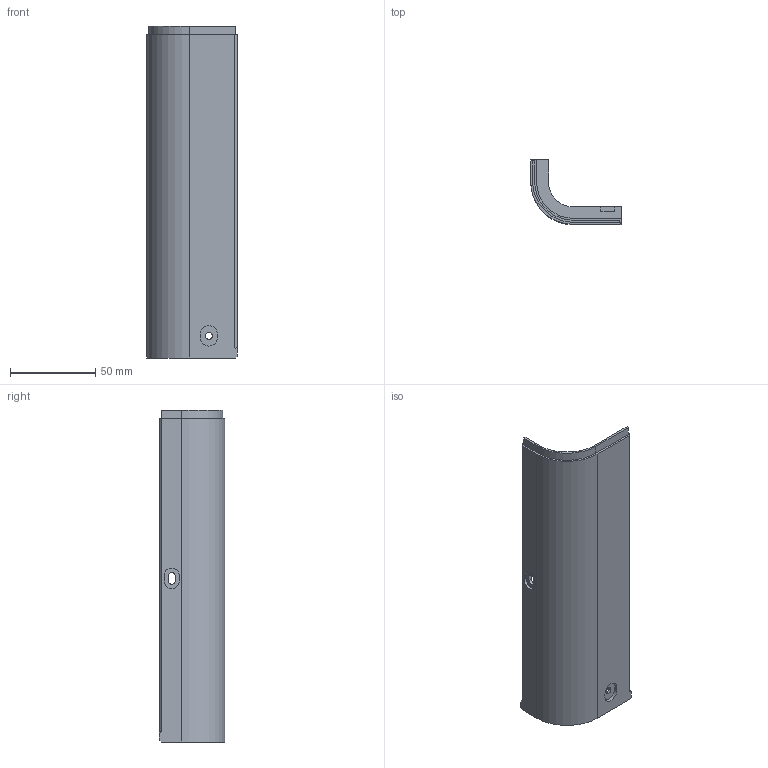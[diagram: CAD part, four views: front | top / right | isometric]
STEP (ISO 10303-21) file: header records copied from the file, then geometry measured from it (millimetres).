
FILE_DESCRIPTION (( 'STEP AP203' ), '1' );
FILE_NAME ('誘啣D1.STEP', '2024-01-02T07:33:31', ( '' ), ( '' ), 'SwSTEP 2.0', 'SolidWorks 2014', '' );
FILE_SCHEMA (( 'CONFIG_CONTROL_DESIGN' ));
Length unit declared in the file: millimetre
Products named in the file (1): 誘啣D1
Bounding box: 53.2 x 38.2 x 194.75 mm (x, y, z)
Volume: 52459.7 mm3; surface area: 33321.6 mm2
Topology: 1 solids, 1 shells, 88 faces, 231 edges, 154 vertices
Faces by surface type: plane 59, cylinder 23, bspline 6
Entity records: 3182 total; most frequent: CARTESIAN_POINT 912, ORIENTED_EDGE 462, DIRECTION 431, EDGE_CURVE 231, LINE 173, VECTOR 173, VERTEX_POINT 154, AXIS2_PLACEMENT_3D 129
